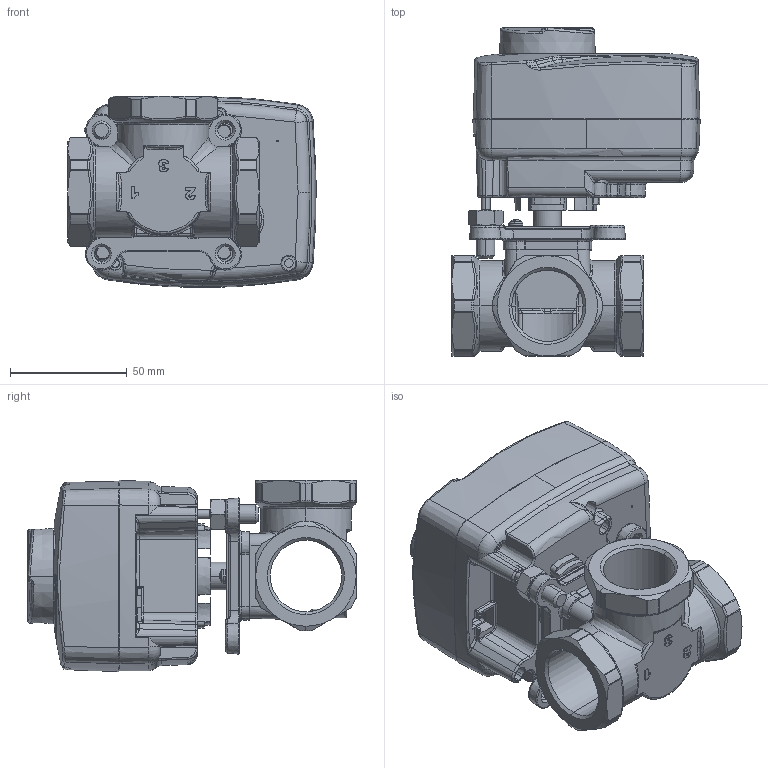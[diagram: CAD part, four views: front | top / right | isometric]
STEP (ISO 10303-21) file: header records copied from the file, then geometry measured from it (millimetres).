
FILE_DESCRIPTION (( 'STEP AP203' ), '1' );
FILE_NAME ('V3GB2512M60230.STEP', '2020-03-11T10:15:09', ( 'Windows User' ), ( 'Watts Water' ), 'SwSTEP 2.0', 'SolidWorks 2017', '' );
FILE_SCHEMA (( 'CONFIG_CONTROL_DESIGN' ));
Length unit declared in the file: millimetre
Products named in the file (1): V3GB2512M60230
Bounding box: 106.48 x 140.7 x 81.96 mm (x, y, z)
Surface area: 72342.9 mm2 (no closed solid volume)
Topology: 0 solids, 50 shells, 1322 faces, 6232 edges, 4819 vertices
Faces by surface type: plane 414, bspline 396, cylinder 217, cone 179, torus 112, sphere 4
Entity records: 92017 total; most frequent: CARTESIAN_POINT 47936, ORIENTED_EDGE 8872, DIRECTION 7336, EDGE_CURVE 6208, VERTEX_POINT 4819, LINE 3180, VECTOR 3180, AXIS2_PLACEMENT_3D 2078
